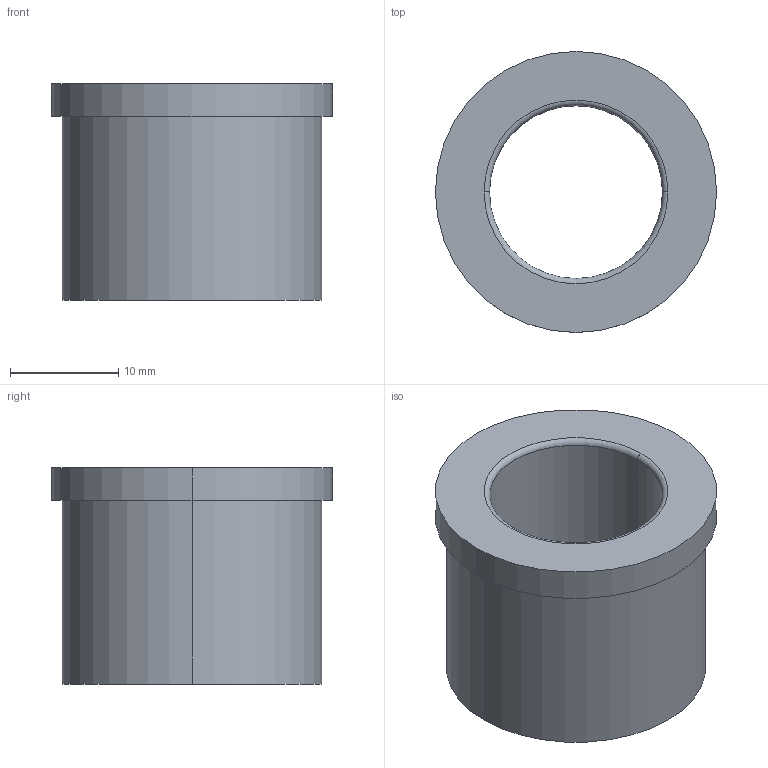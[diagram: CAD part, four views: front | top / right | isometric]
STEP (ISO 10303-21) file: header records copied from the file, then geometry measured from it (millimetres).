
FILE_DESCRIPTION(/* description */ (''),/* implementation_level */ '2;1');
FILE_NAME(/* name */ '3d_sghz16-20_00311_r00.stp',/* time_stamp */ '2011-01-10T14:11:11+09:00',/* author */ ('MISUMI'),/* organization */ (''),/* preprocessor_version */ 'ST-DEVELOPER v11',/* originating_system */ 'UGS - NX 5.0',/* authorisation */ '');
FILE_SCHEMA (('CONFIG_CONTROL_DESIGN'));
Length unit declared in the file: millimetre
Products named in the file (1): 3d_sghz16-20_00311_r00
Bounding box: 26 x 26 x 20 mm (x, y, z)
Volume: 5256.7 mm3; surface area: 3170.5 mm2
Topology: 1 solids, 1 shells, 13 faces, 26 edges, 16 vertices
Faces by surface type: cylinder 6, torus 4, plane 3
Entity records: 438 total; most frequent: DIRECTION 74, CARTESIAN_POINT 56, ORIENTED_EDGE 52, AXIS2_PLACEMENT_3D 34, EDGE_CURVE 26, CIRCLE 20, EDGE_LOOP 16, VERTEX_POINT 16
